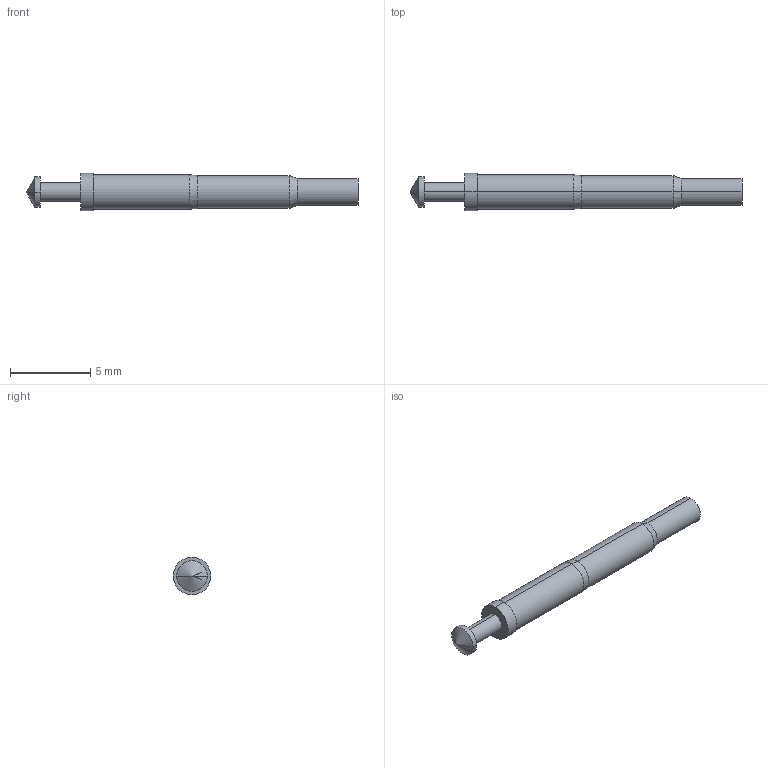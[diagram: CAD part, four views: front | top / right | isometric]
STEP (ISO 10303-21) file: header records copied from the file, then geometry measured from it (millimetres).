
FILE_DESCRIPTION (( 'STEP AP203' ), '1' );
FILE_NAME ('II21-1A.STEP', '2014-08-25T06:28:12', ( '' ), ( '' ), 'SwSTEP 2.0', 'SolidWorks 2011', '' );
FILE_SCHEMA (( 'CONFIG_CONTROL_DESIGN' ));
Length unit declared in the file: millimetre
Products named in the file (1): II21-1A
Bounding box: 20.69 x 2.33 x 2.33 mm (x, y, z)
Volume: 56.6 mm3; surface area: 141.9 mm2
Topology: 1 solids, 1 shells, 25 faces, 50 edges, 29 vertices
Faces by surface type: cylinder 14, cone 6, plane 5
Entity records: 715 total; most frequent: DIRECTION 128, CARTESIAN_POINT 103, ORIENTED_EDGE 96, AXIS2_PLACEMENT_3D 54, EDGE_CURVE 48, EDGE_LOOP 29, VERTEX_POINT 29, CIRCLE 28
